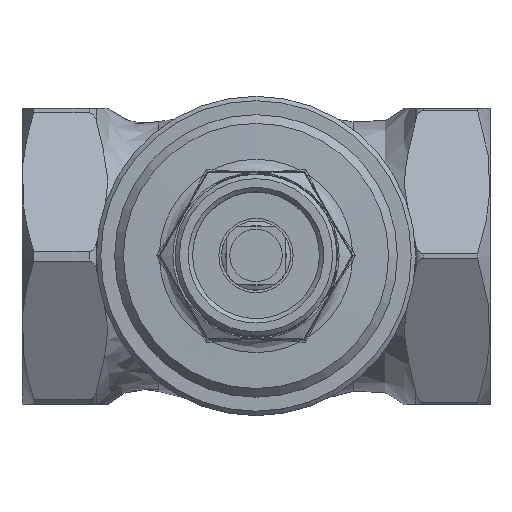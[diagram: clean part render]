
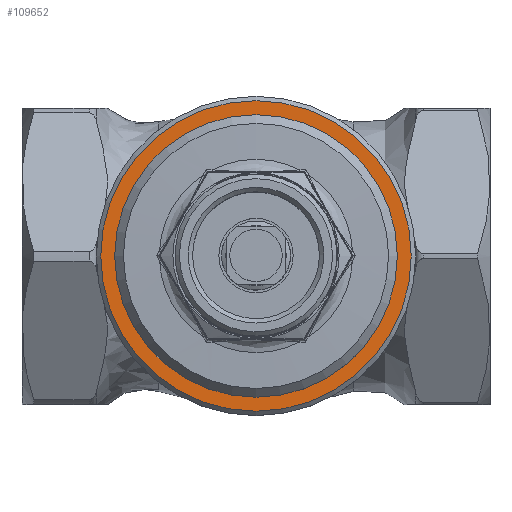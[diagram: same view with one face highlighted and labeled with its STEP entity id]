
A CAD part, top view. The second image highlights one B-rep face of the part: STEP entity #109652.
In plain terms, the highlighted planar face has unit normal (0, 0, 1).
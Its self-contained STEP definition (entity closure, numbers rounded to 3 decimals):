
#54536=CARTESIAN_POINT('',(42.9,0.,36.7));
#54537=VERTEX_POINT('',#54536);
#54538=CARTESIAN_POINT('',(26.75,0.,36.7));
#54539=DIRECTION('',(0.0,0.0,-1.0));
#54540=DIRECTION('',(1.0,0.0,0.0));
#54541=AXIS2_PLACEMENT_3D('',#54538,#54539,#54540);
#54542=CIRCLE('',#54541,16.15);
#54543=EDGE_CURVE('',#54537,#54537,#54542,.T.);
#109626=CARTESIAN_POINT('',(44.5,0.,36.7));
#109627=VERTEX_POINT('',#109626);
#109628=CARTESIAN_POINT('',(26.75,0.,36.7));
#109629=DIRECTION('',(0.0,0.0,-1.0));
#109630=DIRECTION('',(-1.0,0.0,0.0));
#109631=AXIS2_PLACEMENT_3D('',#109628,#109629,#109630);
#109632=CIRCLE('',#109631,17.75);
#109633=EDGE_CURVE('',#109627,#109627,#109632,.T.);
#109641=CARTESIAN_POINT('',(26.726,-0.003,36.7));
#109642=DIRECTION('',(0.0,0.0,1.0));
#109643=DIRECTION('',(1.0,0.0,0.0));
#109644=AXIS2_PLACEMENT_3D('',#109641,#109642,#109643);
#109645=PLANE('',#109644);
#109646=ORIENTED_EDGE('',*,*,#109633,.F.);
#109647=EDGE_LOOP('',(#109646));
#109648=FACE_OUTER_BOUND('',#109647,.T.);
#109649=ORIENTED_EDGE('',*,*,#54543,.T.);
#109650=EDGE_LOOP('',(#109649));
#109651=FACE_BOUND('',#109650,.T.);
#109652=ADVANCED_FACE('',(#109648,#109651),#109645,.T.);
